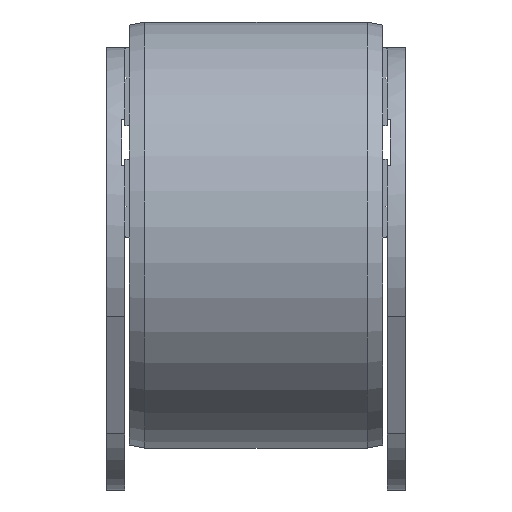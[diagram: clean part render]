
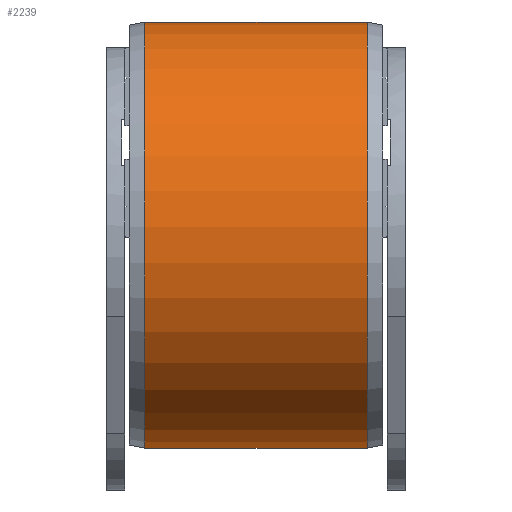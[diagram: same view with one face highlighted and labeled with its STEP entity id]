
A CAD part, left-side view. The second image highlights one B-rep face of the part: STEP entity #2239.
In plain terms, the highlighted cylindrical face has radius 70 mm (diameter 140 mm), a partial arc.
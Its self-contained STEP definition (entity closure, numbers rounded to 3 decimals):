
#2020=CARTESIAN_POINT('',(-410.954,36.5,-133.689));
#2021=VERTEX_POINT('',#2020);
#2051=CARTESIAN_POINT('',(-410.954,-36.5,-133.689));
#2052=VERTEX_POINT('',#2051);
#2059=CARTESIAN_POINT('',(-410.954,36.5,-133.689));
#2060=DIRECTION('',(0.0,-1.0,0.0));
#2061=VECTOR('',#2060,73.0);
#2062=LINE('',#2059,#2061);
#2063=EDGE_CURVE('',#2021,#2052,#2062,.T.);
#2188=CARTESIAN_POINT('',(-440.,36.5,0.));
#2189=VERTEX_POINT('',#2188);
#2190=CARTESIAN_POINT('',(-440.0,36.5,-70.0));
#2191=DIRECTION('',(0.0,-1.0,0.0));
#2192=DIRECTION('',(0.0,0.0,1.0));
#2193=AXIS2_PLACEMENT_3D('',#2190,#2191,#2192);
#2194=CIRCLE('',#2193,70.);
#2195=EDGE_CURVE('',#2189,#2021,#2194,.T.);
#2215=CARTESIAN_POINT('',(-440.0,0.0,-70.0));
#2216=DIRECTION('',(0.0,-1.0,0.0));
#2217=DIRECTION('',(0.0,0.0,1.0));
#2218=AXIS2_PLACEMENT_3D('',#2215,#2216,#2217);
#2219=CYLINDRICAL_SURFACE('',#2218,70.);
#2220=ORIENTED_EDGE('',*,*,#2063,.T.);
#2221=CARTESIAN_POINT('',(-440.,-36.5,0.));
#2222=VERTEX_POINT('',#2221);
#2223=CARTESIAN_POINT('',(-440.0,-36.5,-70.0));
#2224=DIRECTION('',(0.0,-1.0,0.0));
#2225=DIRECTION('',(0.0,0.0,1.0));
#2226=AXIS2_PLACEMENT_3D('',#2223,#2224,#2225);
#2227=CIRCLE('',#2226,70.);
#2228=EDGE_CURVE('',#2222,#2052,#2227,.T.);
#2229=ORIENTED_EDGE('',*,*,#2228,.F.);
#2230=CARTESIAN_POINT('',(-440.0,36.5,0.));
#2231=DIRECTION('',(0.0,-1.0,0.0));
#2232=VECTOR('',#2231,73.0);
#2233=LINE('',#2230,#2232);
#2234=EDGE_CURVE('',#2189,#2222,#2233,.T.);
#2235=ORIENTED_EDGE('',*,*,#2234,.F.);
#2236=ORIENTED_EDGE('',*,*,#2195,.T.);
#2237=EDGE_LOOP('',(#2220,#2229,#2235,#2236));
#2238=FACE_OUTER_BOUND('',#2237,.T.);
#2239=ADVANCED_FACE('',(#2238),#2219,.T.);
